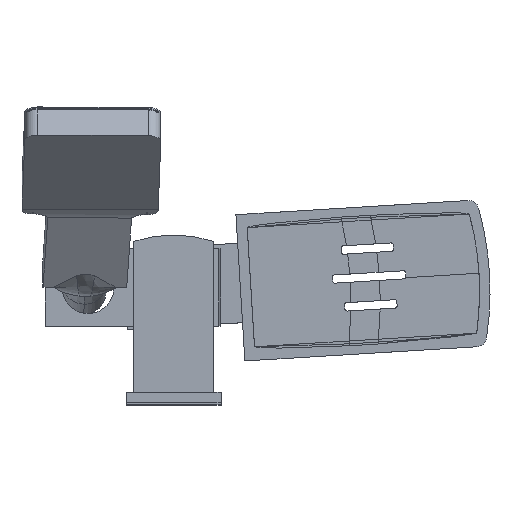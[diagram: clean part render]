
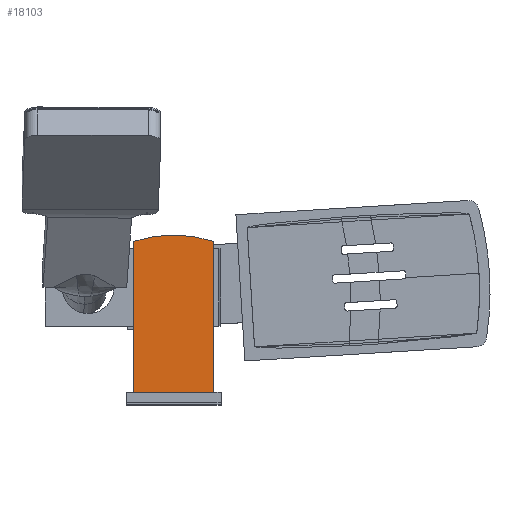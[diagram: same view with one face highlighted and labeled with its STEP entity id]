
A CAD part, top view. The second image highlights one B-rep face of the part: STEP entity #18103.
In plain terms, the highlighted planar face has unit normal (0, 0, 1).
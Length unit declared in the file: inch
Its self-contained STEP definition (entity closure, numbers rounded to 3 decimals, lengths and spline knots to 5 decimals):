
#758 = CARTESIAN_POINT ( 'NONE',  ( 0.74803, -2.26378, 26.31226 ) ) ;
#968 = DIRECTION ( 'NONE',  ( 0., 1., 0. ) ) ;
#2776 = PLANE ( 'NONE',  #31132 ) ;
#3387 = CARTESIAN_POINT ( 'NONE',  ( 0., -2.26378, 26.31226 ) ) ;
#4835 = VECTOR ( 'NONE', #10232, 39.37008 ) ;
#6799 = EDGE_LOOP ( 'NONE', ( #14702, #27224, #26184, #35681 ) ) ;
#8463 = CIRCLE ( 'NONE', #13808, 2.42324 ) ;
#8839 = EDGE_CURVE ( 'NONE', #11484, #16890, #14340, .T. ) ;
#9261 = DIRECTION ( 'NONE',  ( 1., 0., 0. ) ) ;
#10232 = DIRECTION ( 'NONE',  ( 0., 1., 0. ) ) ;
#10971 = DIRECTION ( 'NONE',  ( 1., 0., 0. ) ) ;
#11484 = VERTEX_POINT ( 'NONE', #30925 ) ;
#12598 = FACE_OUTER_BOUND ( 'NONE', #6799, .T. ) ;
#13573 = LINE ( 'NONE', #39024, #4835 ) ;
#13808 = AXIS2_PLACEMENT_3D ( 'NONE', #29551, #14109, #10971 ) ;
#14109 = DIRECTION ( 'NONE',  ( 0., 0., -1. ) ) ;
#14340 = LINE ( 'NONE', #758, #29437 ) ;
#14702 = ORIENTED_EDGE ( 'NONE', *, *, #25335, .F. ) ;
#16890 = VERTEX_POINT ( 'NONE', #28666 ) ;
#17784 = EDGE_CURVE ( 'NONE', #25720, #16890, #8463, .T. ) ;
#18103 = ADVANCED_FACE ( 'NONE', ( #12598 ), #2776, .T. ) ;
#18987 = VERTEX_POINT ( 'NONE', #30896 ) ;
#23590 = DIRECTION ( 'NONE',  ( 1., 0., 0. ) ) ;
#24354 = EDGE_CURVE ( 'NONE', #18987, #11484, #36095, .T. ) ;
#25335 = EDGE_CURVE ( 'NONE', #18987, #25720, #13573, .T. ) ;
#25514 = VECTOR ( 'NONE', #23590, 39.37008 ) ;
#25720 = VERTEX_POINT ( 'NONE', #37930 ) ;
#26184 = ORIENTED_EDGE ( 'NONE', *, *, #8839, .T. ) ;
#27224 = ORIENTED_EDGE ( 'NONE', *, *, #24354, .T. ) ;
#28666 = CARTESIAN_POINT ( 'NONE',  ( 0.74803, 0.76772, 26.31226 ) ) ;
#29437 = VECTOR ( 'NONE', #968, 39.37008 ) ;
#29551 = CARTESIAN_POINT ( 'NONE',  ( 0., -1.53717, 26.31226 ) ) ;
#30048 = CARTESIAN_POINT ( 'NONE',  ( 0., -2.06693, 26.31226 ) ) ;
#30896 = CARTESIAN_POINT ( 'NONE',  ( -0.74803, -2.06693, 26.31226 ) ) ;
#30925 = CARTESIAN_POINT ( 'NONE',  ( 0.74803, -2.06693, 26.31226 ) ) ;
#31132 = AXIS2_PLACEMENT_3D ( 'NONE', #3387, #31596, #9261 ) ;
#31596 = DIRECTION ( 'NONE',  ( 0., 0., 1. ) ) ;
#35681 = ORIENTED_EDGE ( 'NONE', *, *, #17784, .F. ) ;
#36095 = LINE ( 'NONE', #30048, #25514 ) ;
#37930 = CARTESIAN_POINT ( 'NONE',  ( -0.74803, 0.76772, 26.31226 ) ) ;
#39024 = CARTESIAN_POINT ( 'NONE',  ( -0.74803, -2.26378, 26.31226 ) ) ;
